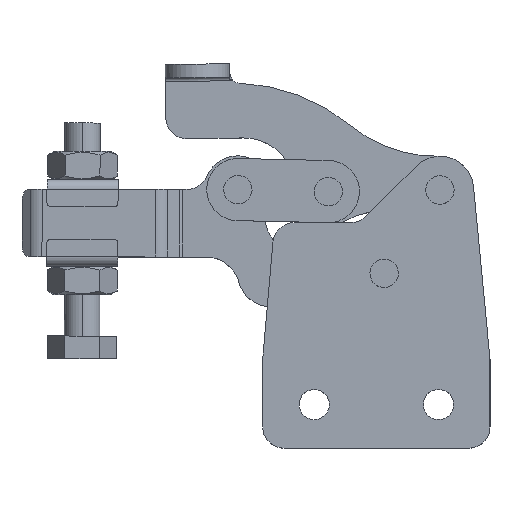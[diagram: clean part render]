
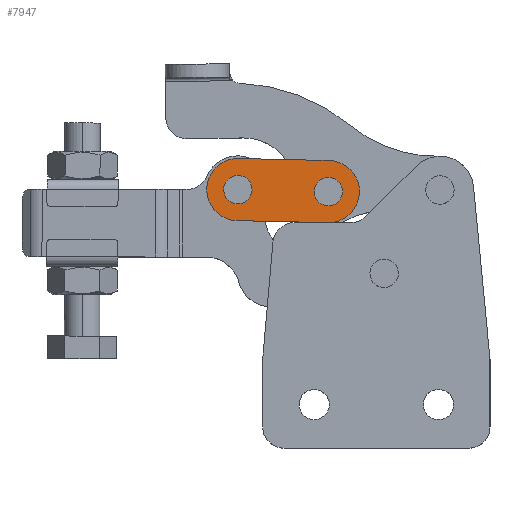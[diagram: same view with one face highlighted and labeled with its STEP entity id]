
A CAD part, top view. The second image highlights one B-rep face of the part: STEP entity #7947.
In plain terms, the highlighted planar face has unit normal (0, 0, 1) as drawn and (0, 1, 0) by its records, which use the part's own axes.
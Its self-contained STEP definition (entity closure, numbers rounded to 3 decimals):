
#65 = ORIENTED_EDGE ( 'NONE', *, *, #4968, .T. ) ;
#162 = DIRECTION ( 'NONE',  ( 0., 1., 0. ) ) ;
#223 = AXIS2_PLACEMENT_3D ( 'NONE', #5628, #1609, #6307 ) ;
#349 = CARTESIAN_POINT ( 'NONE',  ( 12.75, 3.75, 0. ) ) ;
#438 = DIRECTION ( 'NONE',  ( 0., 0., -1. ) ) ;
#869 = CIRCLE ( 'NONE', #5523, 3.2 ) ;
#927 = CARTESIAN_POINT ( 'NONE',  ( 12.75, 3.75, 8.75 ) ) ;
#1032 = DIRECTION ( 'NONE',  ( 0., 0., 1. ) ) ;
#1397 = AXIS2_PLACEMENT_3D ( 'NONE', #4197, #162, #4874 ) ;
#1430 = EDGE_CURVE ( 'NONE', #7569, #5185, #869, .T. ) ;
#1527 = DIRECTION ( 'NONE',  ( 1., 0., 0. ) ) ;
#1609 = DIRECTION ( 'NONE',  ( 0., 1., 0. ) ) ;
#1647 = CARTESIAN_POINT ( 'NONE',  ( -12.75, 3.75, 8.75 ) ) ;
#1703 = ORIENTED_EDGE ( 'NONE', *, *, #2815, .T. ) ;
#1709 = VERTEX_POINT ( 'NONE', #3008 ) ;
#1878 = EDGE_CURVE ( 'NONE', #2112, #6890, #7323, .T. ) ;
#1922 = DIRECTION ( 'NONE',  ( 0., 1., 0. ) ) ;
#1923 = AXIS2_PLACEMENT_3D ( 'NONE', #6769, #2725, #7449 ) ;
#1979 = AXIS2_PLACEMENT_3D ( 'NONE', #8543, #4461, #438 ) ;
#2084 = LINE ( 'NONE', #5550, #7468 ) ;
#2112 = VERTEX_POINT ( 'NONE', #5460 ) ;
#2448 = EDGE_LOOP ( 'NONE', ( #5796, #6640 ) ) ;
#2538 = ORIENTED_EDGE ( 'NONE', *, *, #7854, .F. ) ;
#2553 = VERTEX_POINT ( 'NONE', #1647 ) ;
#2606 = CIRCLE ( 'NONE', #8379, 3.2 ) ;
#2675 = DIRECTION ( 'NONE',  ( 0., 0., -1. ) ) ;
#2725 = DIRECTION ( 'NONE',  ( 0., 1., 0. ) ) ;
#2815 = EDGE_CURVE ( 'NONE', #7694, #1709, #5374, .T. ) ;
#3008 = CARTESIAN_POINT ( 'NONE',  ( 12.75, 3.75, -8.75 ) ) ;
#3289 = CARTESIAN_POINT ( 'NONE',  ( -12.75, 3.75, 3.2 ) ) ;
#3552 = FACE_OUTER_BOUND ( 'NONE', #8070, .T. ) ;
#3924 = DIRECTION ( 'NONE',  ( -1., 0., 0. ) ) ;
#4197 = CARTESIAN_POINT ( 'NONE',  ( -12.75, 3.75, 0. ) ) ;
#4461 = DIRECTION ( 'NONE',  ( 0., 1., 0. ) ) ;
#4558 = VERTEX_POINT ( 'NONE', #8410 ) ;
#4578 = EDGE_LOOP ( 'NONE', ( #2538, #6460 ) ) ;
#4874 = DIRECTION ( 'NONE',  ( 0., 0., 1. ) ) ;
#4968 = EDGE_CURVE ( 'NONE', #4558, #2553, #6017, .T. ) ;
#5014 = AXIS2_PLACEMENT_3D ( 'NONE', #6032, #8744, #2675 ) ;
#5074 = DIRECTION ( 'NONE',  ( 0., 1., 0. ) ) ;
#5143 = FACE_BOUND ( 'NONE', #4578, .T. ) ;
#5185 = VERTEX_POINT ( 'NONE', #6691 ) ;
#5225 = ORIENTED_EDGE ( 'NONE', *, *, #8151, .T. ) ;
#5374 = CIRCLE ( 'NONE', #1923, 8.75 ) ;
#5440 = EDGE_CURVE ( 'NONE', #1709, #4558, #6130, .T. ) ;
#5460 = CARTESIAN_POINT ( 'NONE',  ( -12.75, 3.75, -3.2 ) ) ;
#5523 = AXIS2_PLACEMENT_3D ( 'NONE', #349, #5074, #1032 ) ;
#5550 = CARTESIAN_POINT ( 'NONE',  ( 12.75, 3.75, 8.75 ) ) ;
#5628 = CARTESIAN_POINT ( 'NONE',  ( -12.75, 3.75, 0. ) ) ;
#5796 = ORIENTED_EDGE ( 'NONE', *, *, #1878, .F. ) ;
#5938 = CARTESIAN_POINT ( 'NONE',  ( 12.75, 3.75, 0. ) ) ;
#6017 = CIRCLE ( 'NONE', #1979, 8.75 ) ;
#6032 = CARTESIAN_POINT ( 'NONE',  ( -12.75, 3.75, 0. ) ) ;
#6130 = LINE ( 'NONE', #7282, #7728 ) ;
#6307 = DIRECTION ( 'NONE',  ( 0., 0., 1. ) ) ;
#6460 = ORIENTED_EDGE ( 'NONE', *, *, #1430, .F. ) ;
#6625 = DIRECTION ( 'NONE',  ( 0., 0., 1. ) ) ;
#6638 = CARTESIAN_POINT ( 'NONE',  ( 12.75, 3.75, 3.2 ) ) ;
#6640 = ORIENTED_EDGE ( 'NONE', *, *, #8514, .F. ) ;
#6691 = CARTESIAN_POINT ( 'NONE',  ( 12.75, 3.75, -3.2 ) ) ;
#6712 = PLANE ( 'NONE',  #5014 ) ;
#6769 = CARTESIAN_POINT ( 'NONE',  ( 12.75, 3.75, 0. ) ) ;
#6890 = VERTEX_POINT ( 'NONE', #3289 ) ;
#7282 = CARTESIAN_POINT ( 'NONE',  ( -12.75, 3.75, -8.75 ) ) ;
#7323 = CIRCLE ( 'NONE', #223, 3.2 ) ;
#7400 = CIRCLE ( 'NONE', #1397, 3.2 ) ;
#7449 = DIRECTION ( 'NONE',  ( 0., 0., -1. ) ) ;
#7468 = VECTOR ( 'NONE', #1527, 1000. ) ;
#7569 = VERTEX_POINT ( 'NONE', #6638 ) ;
#7694 = VERTEX_POINT ( 'NONE', #927 ) ;
#7721 = ORIENTED_EDGE ( 'NONE', *, *, #5440, .T. ) ;
#7728 = VECTOR ( 'NONE', #3924, 1000. ) ;
#7854 = EDGE_CURVE ( 'NONE', #5185, #7569, #2606, .T. ) ;
#7947 = ADVANCED_FACE ( 'NONE', ( #8755, #3552, #5143 ), #6712, .F. ) ;
#8070 = EDGE_LOOP ( 'NONE', ( #65, #5225, #1703, #7721 ) ) ;
#8151 = EDGE_CURVE ( 'NONE', #2553, #7694, #2084, .T. ) ;
#8379 = AXIS2_PLACEMENT_3D ( 'NONE', #5938, #1922, #6625 ) ;
#8410 = CARTESIAN_POINT ( 'NONE',  ( -12.75, 3.75, -8.75 ) ) ;
#8514 = EDGE_CURVE ( 'NONE', #6890, #2112, #7400, .T. ) ;
#8543 = CARTESIAN_POINT ( 'NONE',  ( -12.75, 3.75, 0. ) ) ;
#8744 = DIRECTION ( 'NONE',  ( 0., -1., 0. ) ) ;
#8755 = FACE_BOUND ( 'NONE', #2448, .T. ) ;
